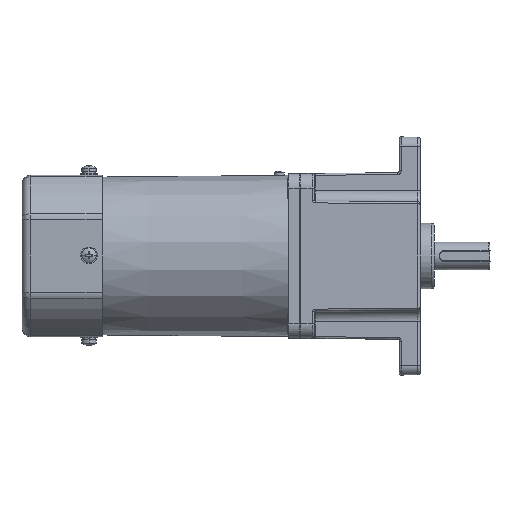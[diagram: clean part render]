
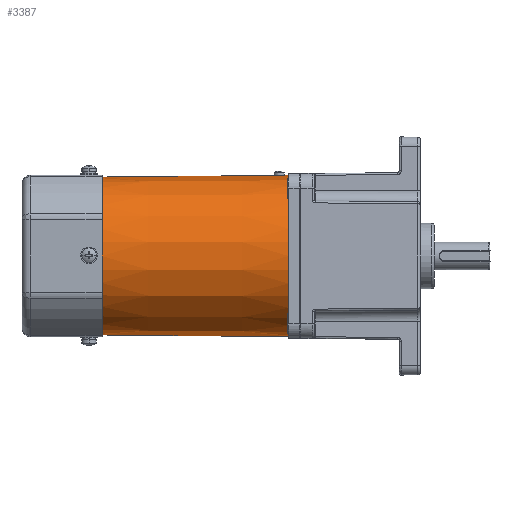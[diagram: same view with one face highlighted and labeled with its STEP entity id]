
A CAD part, front view. The second image highlights one B-rep face of the part: STEP entity #3387.
In plain terms, the highlighted conical face has half-angle 0.503 degrees and reference radius 43.236 mm.
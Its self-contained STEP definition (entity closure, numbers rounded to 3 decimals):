
#391 = LINE ( 'NONE', #13677, #9779 ) ;
#570 = VERTEX_POINT ( 'NONE', #4464 ) ;
#3004 = EDGE_LOOP ( 'NONE', ( #29731, #17690, #22466, #36778, #28435 ) ) ;
#3387 = ADVANCED_FACE ( 'NONE', ( #41276 ), #13452, .T. ) ;
#4464 = CARTESIAN_POINT ( 'NONE',  ( 2647.292, -775.157, 44. ) ) ;
#5362 = CARTESIAN_POINT ( 'NONE',  ( 2560.293, -775.157, 43.236 ) ) ;
#6721 = EDGE_CURVE ( 'NONE', #29034, #33864, #34721, .T. ) ;
#7760 = DIRECTION ( 'NONE',  ( 1., 0., -0.009 ) ) ;
#7944 = DIRECTION ( 'NONE',  ( 1., 0., 0.009 ) ) ;
#9105 = DIRECTION ( 'NONE',  ( 1., 0., 0. ) ) ;
#9730 = VECTOR ( 'NONE', #7944, 1000. ) ;
#9779 = VECTOR ( 'NONE', #40072, 1000. ) ;
#10081 = EDGE_CURVE ( 'NONE', #23351, #14658, #37131, .T. ) ;
#11985 = AXIS2_PLACEMENT_3D ( 'NONE', #16092, #32188, #39077 ) ;
#12215 = VECTOR ( 'NONE', #7760, 1000. ) ;
#13279 = DIRECTION ( 'NONE',  ( -1., 0., 0. ) ) ;
#13452 = CONICAL_SURFACE ( 'NONE', #15500, 43.236, 0.009 ) ;
#13677 = CARTESIAN_POINT ( 'NONE',  ( -2365.797, -775.157, 0. ) ) ;
#14658 = VERTEX_POINT ( 'NONE', #25194 ) ;
#15500 = AXIS2_PLACEMENT_3D ( 'NONE', #40848, #9105, #21315 ) ;
#15558 = AXIS2_PLACEMENT_3D ( 'NONE', #26359, #13279, #15856 ) ;
#15856 = DIRECTION ( 'NONE',  ( 0., 0., 1. ) ) ;
#16092 = CARTESIAN_POINT ( 'NONE',  ( 2647.292, -775.157, 0. ) ) ;
#17690 = ORIENTED_EDGE ( 'NONE', *, *, #32089, .F. ) ;
#18281 = CIRCLE ( 'NONE', #15558, 43.105 ) ;
#21315 = DIRECTION ( 'NONE',  ( 0., 0., -1. ) ) ;
#22306 = CARTESIAN_POINT ( 'NONE',  ( 2637.292, -775.157, 43.912 ) ) ;
#22466 = ORIENTED_EDGE ( 'NONE', *, *, #10081, .T. ) ;
#23351 = VERTEX_POINT ( 'NONE', #37608 ) ;
#25194 = CARTESIAN_POINT ( 'NONE',  ( 2647.292, -775.157, -44. ) ) ;
#26359 = CARTESIAN_POINT ( 'NONE',  ( 2545.293, -775.157, 0. ) ) ;
#27669 = EDGE_CURVE ( 'NONE', #14658, #570, #33862, .T. ) ;
#28435 = ORIENTED_EDGE ( 'NONE', *, *, #37605, .T. ) ;
#29034 = VERTEX_POINT ( 'NONE', #31830 ) ;
#29731 = ORIENTED_EDGE ( 'NONE', *, *, #6721, .F. ) ;
#31830 = CARTESIAN_POINT ( 'NONE',  ( 2545.293, -775.157, 43.105 ) ) ;
#32089 = EDGE_CURVE ( 'NONE', #23351, #29034, #18281, .T. ) ;
#32188 = DIRECTION ( 'NONE',  ( -1., 0., 0. ) ) ;
#33862 = CIRCLE ( 'NONE', #11985, 44. ) ;
#33864 = VERTEX_POINT ( 'NONE', #22306 ) ;
#34721 = LINE ( 'NONE', #5362, #9730 ) ;
#36702 = CARTESIAN_POINT ( 'NONE',  ( 2560.293, -775.157, -43.236 ) ) ;
#36778 = ORIENTED_EDGE ( 'NONE', *, *, #27669, .T. ) ;
#37131 = LINE ( 'NONE', #36702, #12215 ) ;
#37605 = EDGE_CURVE ( 'NONE', #570, #33864, #391, .T. ) ;
#37608 = CARTESIAN_POINT ( 'NONE',  ( 2545.293, -775.157, -43.105 ) ) ;
#39077 = DIRECTION ( 'NONE',  ( 0., 0., -1. ) ) ;
#40072 = DIRECTION ( 'NONE',  ( -1., 0., -0.009 ) ) ;
#40848 = CARTESIAN_POINT ( 'NONE',  ( 2560.293, -775.157, 0. ) ) ;
#41276 = FACE_OUTER_BOUND ( 'NONE', #3004, .T. ) ;
